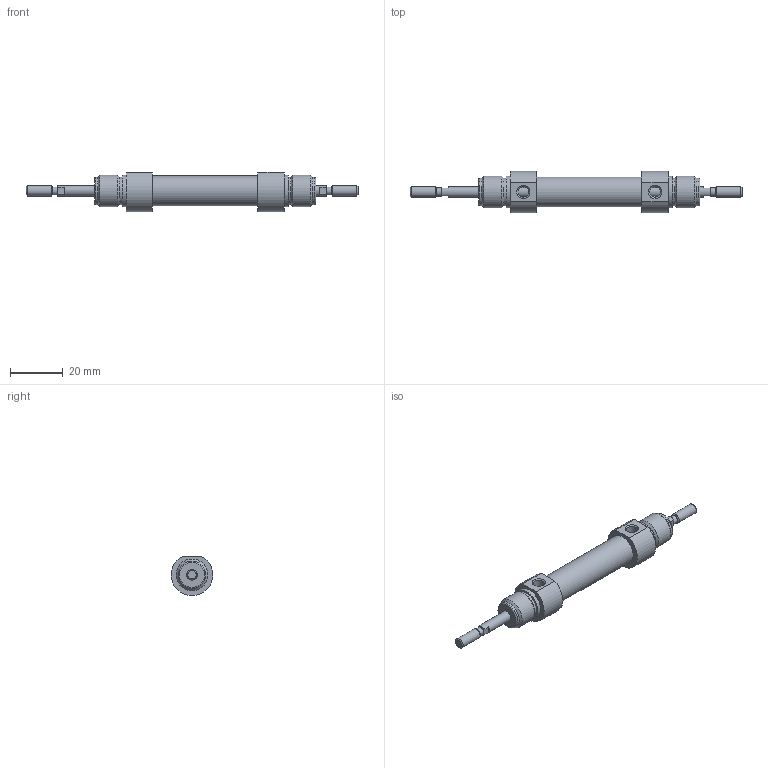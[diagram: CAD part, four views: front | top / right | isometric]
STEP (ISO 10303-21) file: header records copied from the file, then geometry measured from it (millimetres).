
FILE_DESCRIPTION( ( 'STEP AP203' ), '1' );
FILE_NAME( '//expscmdclustefs.cadenas.external/client_exchange/iodir/jobs/output/wkb68274277_no0/STEP/M101-010-0010-M__0__2_03.stp', ' ', ( ' ' ), ( ' ' ), 'PSStep 15.0.47', 'PARTsolutions', ' ' );
FILE_SCHEMA( ( 'CONFIG_CONTROL_DESIGN' ) );
Length unit declared in the file: millimetre
Products named in the file (3): M101-010-0010-M [0]; HI_M101-010-0010-M-[0]-z; HI_M101-010-0010-M-[0]-k
Assembly tree (2 placements, depth 2):
  M101-010-0010-M [0]
    HI_M101-010-0010-M-[0]-z
    HI_M101-010-0010-M-[0]-k
Bounding box: 126 x 15.77 x 14.87 mm (x, y, z)
Volume: 10078.7 mm3; surface area: 7199.2 mm2
Topology: 2 solids, 2 shells, 71 faces, 145 edges, 88 vertices
Faces by surface type: plane 32, cylinder 23, cone 14, torus 2
Full cylindrical faces by diameter (mm): 3.141 x2, 4 x6, 4.134 x2, 10 x2, 10.466 x4, 11.3 x1, 12 x4
Entity records: 1838 total; most frequent: CARTESIAN_POINT 358, DIRECTION 312, ORIENTED_EDGE 212, AXIS2_PLACEMENT_3D 140, EDGE_LOOP 120, EDGE_CURVE 106, FACE_OUTER_BOUND 94, VERTEX_POINT 82
